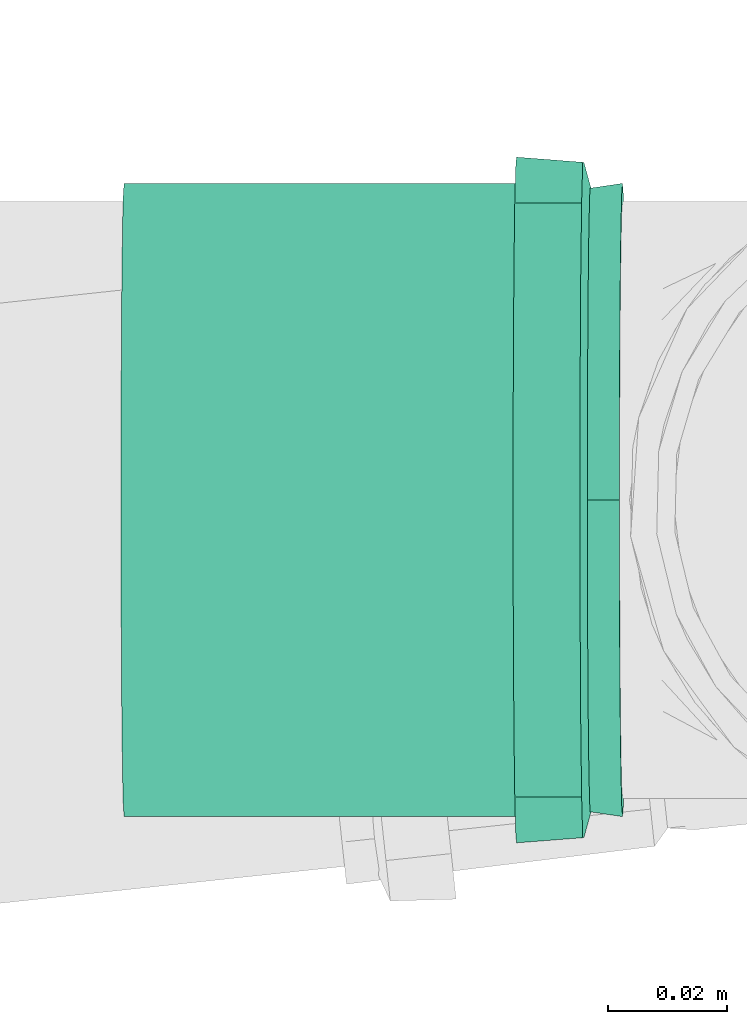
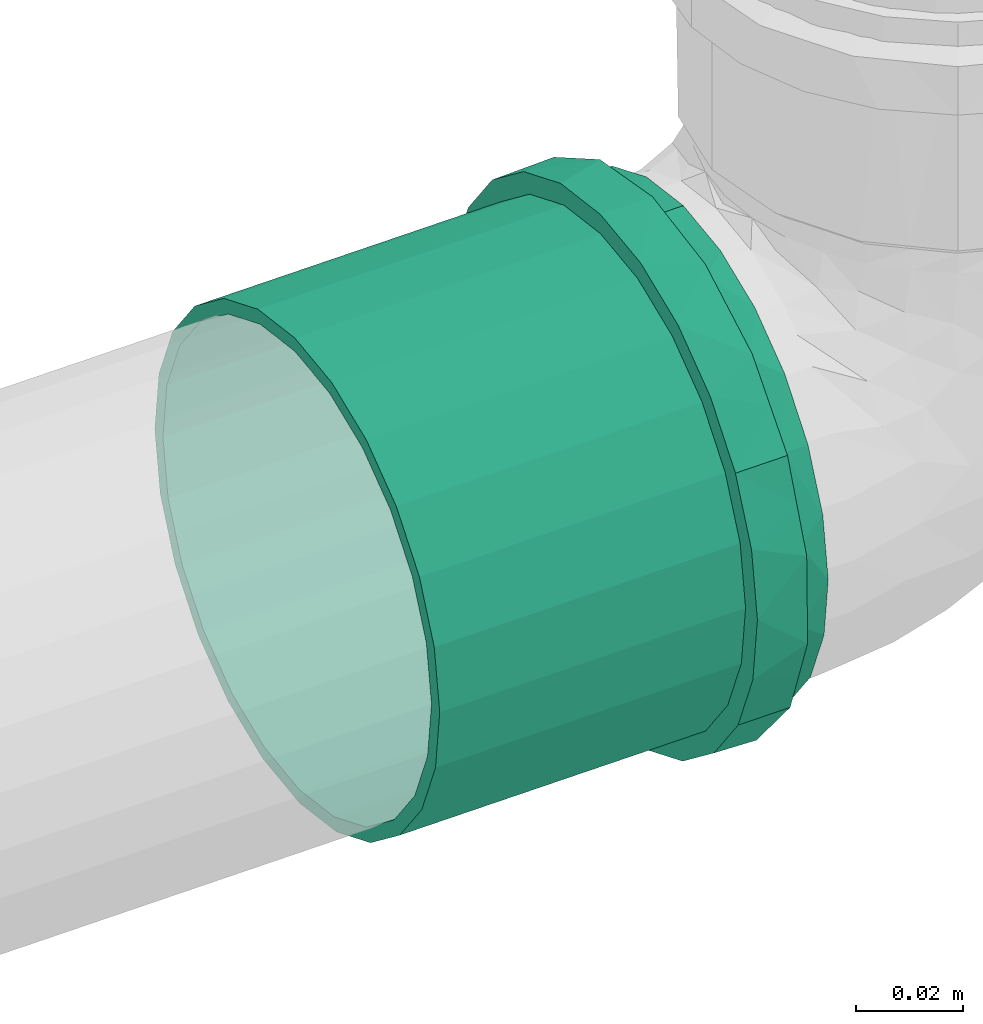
# One storey, part 38 of 97: 1 flow fitting.
"""IFC2X3 building model written with IfcOpenShell, lengths in centimetres."""

from ifc_helpers import new_model, entity, si_unit, converted_unit, derived_unit, direction, frame, origin, place, context, subcontext, project, spatial, faceted_brep, source, transform, mapped, material, type_object, type_shapes, element, save


model = new_model("IFC2X3")

# Units and contexts
model_context = context("Model", 3, precision=0.001, world=origin(), true_north=direction((6.12303176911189e-17, 1.0)))
body_context = subcontext(model_context, "Body", "Model", "MODEL_VIEW")
ifc_project = project(units=[si_unit("LENGTHUNIT", "METRE", prefix="CENTI"), si_unit("AREAUNIT", "SQUARE_METRE"), si_unit("VOLUMEUNIT", "CUBIC_METRE"), converted_unit("PLANEANGLEUNIT", "DEGREE", entity("IfcRatioMeasure", 0.0174532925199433), si_unit("PLANEANGLEUNIT", "RADIAN"), dimensions=[0, 0, 0, 0, 0, 0, 0]), si_unit("MASSUNIT", "GRAM", prefix="KILO"), derived_unit("MASSDENSITYUNIT", [(si_unit("MASSUNIT", "GRAM", prefix="KILO"), 1), (si_unit("LENGTHUNIT", "METRE"), -3)]), derived_unit("MOMENTOFINERTIAUNIT", [(si_unit("LENGTHUNIT", "METRE"), 4)]), si_unit("TIMEUNIT", "SECOND"), si_unit("FREQUENCYUNIT", "HERTZ"), si_unit("THERMODYNAMICTEMPERATUREUNIT", "DEGREE_CELSIUS"), derived_unit("THERMALTRANSMITTANCEUNIT", [(si_unit("MASSUNIT", "GRAM", prefix="KILO"), 1), (si_unit("THERMODYNAMICTEMPERATUREUNIT", "KELVIN"), -1), (si_unit("TIMEUNIT", "SECOND"), -3)]), derived_unit("VOLUMETRICFLOWRATEUNIT", [(si_unit("LENGTHUNIT", "METRE"), 3), (si_unit("TIMEUNIT", "SECOND"), -1)]), si_unit("ELECTRICCURRENTUNIT", "AMPERE"), si_unit("ELECTRICVOLTAGEUNIT", "VOLT"), si_unit("POWERUNIT", "WATT"), si_unit("FORCEUNIT", "NEWTON", prefix="KILO"), si_unit("ILLUMINANCEUNIT", "LUX"), si_unit("LUMINOUSFLUXUNIT", "LUMEN"), si_unit("LUMINOUSINTENSITYUNIT", "CANDELA"), derived_unit("USERDEFINED", [(si_unit("MASSUNIT", "GRAM", prefix="KILO"), -1), (si_unit("LENGTHUNIT", "METRE"), -2), (si_unit("TIMEUNIT", "SECOND"), 3), (si_unit("LUMINOUSFLUXUNIT", "LUMEN"), 1)]), derived_unit("LINEARVELOCITYUNIT", [(si_unit("LENGTHUNIT", "METRE"), 1), (si_unit("TIMEUNIT", "SECOND"), -1)]), si_unit("PRESSUREUNIT", "PASCAL"), derived_unit("USERDEFINED", [(si_unit("LENGTHUNIT", "METRE"), -2), (si_unit("MASSUNIT", "GRAM", prefix="KILO"), 1), (si_unit("TIMEUNIT", "SECOND"), -2)]), derived_unit("LINEARFORCEUNIT", [(si_unit("MASSUNIT", "GRAM", prefix="KILO"), 1), (si_unit("LENGTHUNIT", "METRE"), 1), (si_unit("TIMEUNIT", "SECOND"), -2), (si_unit("LENGTHUNIT", "METRE"), -1)]), derived_unit("PLANARFORCEUNIT", [(si_unit("MASSUNIT", "GRAM", prefix="KILO"), 1), (si_unit("LENGTHUNIT", "METRE"), 1), (si_unit("TIMEUNIT", "SECOND"), -2), (si_unit("LENGTHUNIT", "METRE"), -2)])], contexts=[model_context])

# Site, building, storey
site_placement = place(None, origin())
site = spatial("IfcSite", under=ifc_project, at=site_placement, Name="Default", CompositionType="ELEMENT")
building_placement = place(site_placement, origin())
building = spatial("IfcBuilding", under=site, at=building_placement, Name="HIDROSSANITÁRIO", CompositionType="ELEMENT")
storey_placement = place(building_placement, frame((0.0, 0.0, -260.0)))
storey = spatial("IfcBuildingStorey", under=building, at=storey_placement, Name="TÉRREO-HID", CompositionType="ELEMENT", Elevation=-260.0)

# Flow fitting
ifc_material = material(Name="PVC Branco")
pipe_fitting_type = type_object("IfcPipeFittingType", Name="Luva Simples para Conexão - Serie Normal - Esgoto - MEP - Tigre:Standard", PredefinedType="NOTDEFINED", material=ifc_material)
shared_shape = source(origin(), body_context, "Body", "Brep", [
    faceted_brep([(1.77700000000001, 2.8725, -4.9753159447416), (1.77700000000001, 4.06232845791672, -4.06232845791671), (1.77700000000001, 2.65249999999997, -4.59426476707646), (1.77700000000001, 1.37303503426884, -5.12423650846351), (1.77700000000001, 1.48691541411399, -5.5492438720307), (1.77700000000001, 3.75120147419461, -3.75120147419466), (1.77700000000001, 4.9753159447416, -2.8725), (1.77700000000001, 4.59426476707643, -2.65250000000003), (1.77700000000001, 5.1242365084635, -1.37303503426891), (1.77700000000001, 5.5492438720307, -1.48691541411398), (1.77700000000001, 5.305, 0.0), (1.77700000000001, 5.745, 0.0), (1.77700000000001, 5.1242365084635, 1.3730350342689), (1.77700000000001, 5.54924387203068, 1.48691541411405), (1.77700000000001, 4.59426476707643, 2.65250000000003), (1.77700000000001, 4.97531594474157, 2.87250000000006), (1.77700000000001, 3.75120147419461, 3.75120147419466), (1.77700000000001, 4.06232845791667, 4.06232845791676), (1.77700000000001, 2.65249999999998, 4.59426476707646), (1.77700000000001, 2.87249999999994, 4.97531594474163), (1.77700000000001, 1.37303503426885, 5.12423650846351), (1.77700000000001, 1.48691541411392, 5.54924387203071), (1.77700000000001, 0.0, 5.305), (1.77700000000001, 0.0, 5.745), (1.77700000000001, -1.37303503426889, 5.1242365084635), (1.77700000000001, -1.48691541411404, 5.54924387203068), (1.77700000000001, -2.65250000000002, 4.59426476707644), (1.77700000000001, -2.87250000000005, 4.97531594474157), (1.77700000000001, -3.75120147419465, 3.75120147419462), (1.77700000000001, -4.06232845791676, 4.06232845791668), (1.77700000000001, -4.59426476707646, 2.65249999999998), (1.77700000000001, -4.97531594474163, 2.87249999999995), (1.77700000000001, -5.54924387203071, 1.48691541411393), (1.77700000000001, -5.12423650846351, 1.37303503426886), (1.77700000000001, -5.745, 0.0), (1.77700000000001, -5.305, 0.0), (1.77700000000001, -5.54924387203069, -1.486915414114), (1.77700000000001, -5.12423650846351, -1.37303503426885), (1.77700000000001, -4.97531594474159, -2.87250000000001), (1.77700000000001, -4.59426476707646, -2.65249999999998), (1.77700000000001, -4.06232845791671, -4.06232845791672), (1.77700000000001, -3.75120147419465, -3.75120147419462), (1.77700000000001, -2.87249999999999, -4.97531594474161), (1.77700000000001, -2.65250000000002, -4.59426476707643), (1.77700000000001, -1.48691541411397, -5.5492438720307), (1.77700000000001, -1.3730350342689, -5.1242365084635), (1.77700000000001, 0.0, -5.745), (1.77700000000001, 0.0, -5.305), (0.657000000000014, -1.93463887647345, 5.31665771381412), (0.657000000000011, -4.4007619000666, 3.69300957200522), (0.657000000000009, -4.89962626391, 2.82901737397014), (0.657000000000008, -5.39849062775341, 1.96502517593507), (0.657000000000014, -2.87216972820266, 4.97550661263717), (0.657000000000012, -3.63646581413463, 4.3342580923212), (0.657000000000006, -5.5717453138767, 0.982512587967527), (0.657000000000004, -5.745, 0.0), (0.657000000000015, -0.997108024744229, 5.65780881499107), (0.657000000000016, 0.998234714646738, 5.65761013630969), (0.657000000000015, 0.0005633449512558, 5.65770947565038), (0.657000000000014, 3.63732887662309, 4.33353383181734), (0.657000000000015, 1.93569761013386, 5.31627233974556), (0.657000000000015, 2.87316050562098, 4.97493454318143), (0.65700000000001, 5.39888184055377, 1.96395006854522), (0.657000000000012, 4.90018954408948, 2.82804159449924), (0.657000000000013, 4.40149724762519, 3.69213312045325), (0.657000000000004, 5.745, 0.0), (0.656999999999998, 4.40149724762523, -3.6921331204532), (0.657, 4.90018954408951, -2.82804159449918), (0.657000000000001, 5.39888184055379, -1.96395006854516), (0.656999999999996, 2.87316050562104, -4.9749345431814), (0.656999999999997, 3.63732887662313, -4.3335338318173), (0.656999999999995, 1.93569761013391, -5.31627233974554), (0.656999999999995, 0.998234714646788, -5.65761013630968), (0.656999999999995, -0.997108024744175, -5.65780881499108), (0.656999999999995, 0.000563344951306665, -5.65770947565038), (0.656999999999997, -3.6364658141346, -4.33425809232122), (0.656999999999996, -2.87216972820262, -4.9755066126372), (0.656999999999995, -1.9346388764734, -5.31665771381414), (0.657000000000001, -5.39849062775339, -1.96502517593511), (0.657, -4.89962626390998, -2.82901737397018), (0.656999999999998, -4.40076190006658, -3.69300957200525), (0.657000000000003, -5.5717453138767, -0.982512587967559), (8.35200000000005, 2.6525, -4.59426476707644), (8.35200000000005, 3.75120147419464, -3.75120147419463), (8.35200000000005, 2.49999999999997, -4.33012701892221), (8.35200000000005, 1.29409522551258, -4.82962913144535), (8.35200000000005, 1.37303503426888, -5.1242365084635), (8.35200000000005, 3.53553390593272, -3.53553390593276), (8.35200000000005, 4.59426476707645, -2.6525), (8.35200000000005, 4.33012701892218, -2.50000000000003), (8.35200000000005, 4.82962913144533, -1.29409522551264), (8.35200000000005, 5.12423650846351, -1.37303503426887), (8.35200000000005, 5.0, 0.0), (8.35200000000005, 5.305, 0.0), (8.35200000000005, 4.82962913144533, 1.29409522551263), (8.35200000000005, 5.12423650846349, 1.37303503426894), (8.35200000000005, 4.33012701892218, 2.50000000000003), (8.35200000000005, 4.59426476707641, 2.65250000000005), (8.35200000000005, 3.53553390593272, 3.53553390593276), (8.35200000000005, 3.75120147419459, 3.75120147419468), (8.35200000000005, 2.49999999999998, 4.33012701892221), (8.35200000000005, 2.65249999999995, 4.59426476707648), (8.35200000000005, 1.29409522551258, 4.82962913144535), (8.35200000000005, 1.37303503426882, 5.12423650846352), (8.35200000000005, 0.0, 5.0), (8.35200000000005, 0.0, 5.305), (8.35200000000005, -1.29409522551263, 4.82962913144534), (8.35200000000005, -1.37303503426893, 5.12423650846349), (8.35200000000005, -2.50000000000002, 4.33012701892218), (8.35200000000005, -2.65250000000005, 4.59426476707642), (8.35200000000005, -3.53553390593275, 3.53553390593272), (8.35200000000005, -3.75120147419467, 3.7512014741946), (8.35200000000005, -4.3301270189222, 2.49999999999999), (8.35200000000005, -4.59426476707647, 2.65249999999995), (8.35200000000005, -5.12423650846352, 1.37303503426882), (8.35200000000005, -4.82962913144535, 1.29409522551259), (8.35200000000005, -5.305, 0.0), (8.35200000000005, -5.0, 0.0), (8.35200000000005, -5.1242365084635, -1.37303503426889), (8.35200000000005, -4.82962913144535, -1.29409522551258), (8.35200000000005, -4.59426476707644, -2.65250000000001), (8.35200000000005, -4.3301270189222, -2.49999999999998), (8.35200000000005, -3.75120147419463, -3.75120147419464), (8.35200000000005, -3.53553390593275, -3.53553390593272), (8.35200000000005, -2.65249999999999, -4.59426476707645), (8.35200000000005, -2.50000000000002, -4.33012701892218), (8.35200000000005, -1.37303503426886, -5.12423650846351), (8.35200000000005, -1.29409522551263, -4.82962913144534), (8.35200000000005, 0.0, -5.305), (8.35200000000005, 0.0, -5.0), (0.0, 2.49999999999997, -4.33012701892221), (0.0, 3.75120147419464, -3.75120147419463), (0.0, 2.6525, -4.59426476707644), (0.0, 1.29409522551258, -4.82962913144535), (0.0, 3.53553390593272, -3.53553390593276), (0.0, 4.59426476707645, -2.6525), (0.0, 4.33012701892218, -2.50000000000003), (0.0, 4.82962913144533, -1.29409522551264), (0.0, 5.12423650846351, -1.37303503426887), (0.0, 5.0, 0.0), (0.0, 5.305, 0.0), (0.0, 4.82962913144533, 1.29409522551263), (0.0, 5.12423650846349, 1.37303503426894), (0.0, 4.33012701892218, 2.50000000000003), (0.0, 4.59426476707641, 2.65250000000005), (0.0, 3.53553390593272, 3.53553390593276), (0.0, 3.75120147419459, 3.75120147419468), (0.0, 2.49999999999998, 4.33012701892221), (0.0, 2.65249999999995, 4.59426476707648), (0.0, 1.29409522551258, 4.82962913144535), (0.0, 1.37303503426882, 5.12423650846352), (0.0, 0.0, 5.0), (0.0, 0.0, 5.305), (0.0, -1.29409522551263, 4.82962913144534), (0.0, -1.37303503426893, 5.12423650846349), (0.0, -2.50000000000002, 4.33012701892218), (0.0, -2.65250000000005, 4.59426476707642), (0.0, -3.53553390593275, 3.53553390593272), (0.0, -3.75120147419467, 3.7512014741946), (0.0, -4.3301270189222, 2.49999999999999), (0.0, -4.59426476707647, 2.65249999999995), (0.0, -5.12423650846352, 1.37303503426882), (0.0, -4.82962913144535, 1.29409522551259), (0.0, -5.305, 0.0), (0.0, -5.0, 0.0), (0.0, -5.1242365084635, -1.37303503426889), (0.0, -4.82962913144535, -1.29409522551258), (0.0, -4.59426476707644, -2.65250000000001), (0.0, -4.3301270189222, -2.49999999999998), (0.0, -3.75120147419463, -3.75120147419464), (0.0, -3.53553390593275, -3.53553390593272), (0.0, -2.65249999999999, -4.59426476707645), (0.0, -2.50000000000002, -4.33012701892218), (0.0, -1.37303503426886, -5.12423650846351), (0.0, -1.29409522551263, -4.82962913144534), (0.0, 0.0, -5.305), (0.0, 0.0, -5.0), (0.0, 1.37303503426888, -5.1242365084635), (0.537000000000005, -5.305, 0.0), (0.537000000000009, -4.98507989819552, 1.81438788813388), (0.537000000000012, -4.06390540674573, 3.4099410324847), (0.537000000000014, -2.65258010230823, 4.59421851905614), (0.537000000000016, -0.921325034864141, 5.22438371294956), (0.537000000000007, 5.1449924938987, 0.907324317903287), (0.537000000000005, 5.305, 0.0), (0.537000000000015, 2.65233979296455, 4.59435725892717), (0.537000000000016, 0.921051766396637, 5.22443189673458), (0.537000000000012, 4.06372704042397, 3.41015359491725), (0.537000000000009, 4.9849849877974, 1.81464863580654), (0.537000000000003, 5.14499249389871, -0.907324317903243), (0.537000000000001, 4.98498498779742, -1.81464863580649), (0.536999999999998, 4.063727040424, -3.41015359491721), (0.536999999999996, 2.6523397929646, -4.59435725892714), (0.536999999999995, 0.921051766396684, -5.22443189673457), (0.536999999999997, -2.6525801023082, -4.59421851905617), (0.536999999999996, -0.921325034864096, -5.22438371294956), (0.536999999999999, -4.0639054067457, -3.40994103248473), (0.537000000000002, -4.98507989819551, -1.81438788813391), (5.0, -5.0, 0.0), (5.0, 5.0, 0.0)], [[[0, 1, 2]], [[0, 2, 3]], [[3, 4, 0]], [[2, 1, 5]], [[6, 5, 1]], [[5, 6, 7]], [[7, 6, 8]], [[9, 8, 6]], [[9, 10, 8]], [[10, 9, 11]], [[12, 10, 11]], [[11, 13, 12]], [[12, 13, 14]], [[15, 14, 13]], [[14, 15, 16]], [[16, 15, 17]], [[18, 16, 17]], [[17, 19, 18]], [[18, 19, 20]], [[21, 20, 19]], [[20, 21, 22]], [[22, 21, 23]], [[22, 23, 24]], [[24, 23, 25]], [[24, 25, 26]], [[27, 26, 25]], [[27, 28, 26]], [[28, 27, 29]], [[29, 30, 28]], [[31, 30, 29]], [[30, 31, 32]], [[32, 33, 30]], [[34, 33, 32]], [[34, 35, 33]], [[36, 35, 34]], [[36, 37, 35]], [[37, 36, 38]], [[38, 39, 37]], [[39, 38, 40]], [[39, 40, 41]], [[40, 42, 41]], [[41, 42, 43]], [[43, 42, 44]], [[44, 45, 43]], [[46, 45, 44]], [[4, 47, 46]], [[46, 47, 45]], [[4, 3, 47]], [[48, 27, 25]], [[31, 29, 49]], [[31, 49, 50, 51]], [[52, 53, 27]], [[32, 51, 54]], [[54, 55, 34]], [[54, 34, 32]], [[25, 56, 48]], [[49, 29, 53]], [[23, 57, 58, 56]], [[59, 19, 17]], [[27, 53, 29]], [[48, 52, 27]], [[31, 51, 32]], [[57, 23, 21]], [[60, 19, 61]], [[15, 62, 63, 64]], [[19, 60, 21]], [[15, 13, 62]], [[17, 64, 59]], [[57, 21, 60]], [[23, 56, 25]], [[15, 64, 17]], [[13, 65, 62]], [[13, 11, 65]], [[59, 61, 19]], [[65, 11, 9]], [[6, 1, 66]], [[6, 66, 67, 68]], [[69, 70, 0]], [[68, 65, 9]], [[71, 69, 0]], [[71, 0, 4]], [[4, 72, 71]], [[66, 1, 70]], [[46, 73, 74, 72]], [[75, 76, 42]], [[0, 70, 1]], [[75, 42, 40]], [[6, 68, 9]], [[73, 46, 44]], [[77, 42, 76]], [[38, 78, 79, 80]], [[42, 77, 44]], [[38, 36, 78]], [[40, 80, 75]], [[73, 44, 77]], [[46, 72, 4]], [[38, 80, 40]], [[81, 78, 36]], [[55, 81, 34]], [[34, 81, 36]], [[82, 83, 84]], [[82, 84, 85]], [[85, 86, 82]], [[84, 83, 87]], [[88, 87, 83]], [[87, 88, 89]], [[89, 88, 90]], [[91, 90, 88]], [[91, 92, 90]], [[92, 91, 93]], [[94, 92, 93]], [[93, 95, 94]], [[94, 95, 96]], [[97, 96, 95]], [[96, 97, 98]], [[98, 97, 99]], [[100, 98, 99]], [[99, 101, 100]], [[100, 101, 102]], [[103, 102, 101]], [[102, 103, 104]], [[104, 103, 105]], [[104, 105, 106]], [[106, 105, 107]], [[106, 107, 108]], [[109, 108, 107]], [[110, 108, 109]], [[110, 109, 111]], [[111, 112, 110]], [[113, 112, 111]], [[112, 113, 114]], [[114, 115, 112]], [[116, 115, 114]], [[116, 117, 115]], [[118, 117, 116]], [[118, 119, 117]], [[119, 118, 120]], [[120, 121, 119]], [[121, 120, 122]], [[121, 122, 123]], [[122, 124, 123]], [[125, 123, 124]], [[125, 124, 126]], [[126, 127, 125]], [[128, 127, 126]], [[86, 129, 128]], [[128, 129, 127]], [[86, 85, 129]], [[130, 131, 132]], [[133, 130, 132]], [[134, 131, 130]], [[131, 134, 135]], [[136, 135, 134]], [[137, 135, 136]], [[135, 137, 138]], [[137, 139, 138]], [[140, 138, 139]], [[140, 139, 141]], [[141, 142, 140]], [[143, 142, 141]], [[142, 143, 144]], [[145, 144, 143]], [[146, 144, 145]], [[146, 145, 147]], [[147, 148, 146]], [[149, 148, 147]], [[148, 149, 150]], [[151, 150, 149]], [[152, 150, 151]], [[153, 152, 151]], [[154, 152, 153]], [[155, 154, 153]], [[154, 155, 156]], [[156, 155, 157]], [[158, 156, 157]], [[157, 159, 158]], [[158, 159, 160]], [[161, 160, 159]], [[159, 162, 161]], [[161, 162, 163]], [[162, 164, 163]], [[163, 164, 165]], [[164, 166, 165]], [[167, 165, 166]], [[166, 168, 167]], [[169, 167, 168]], [[170, 169, 168]], [[170, 171, 169]], [[171, 170, 172]], [[173, 171, 172]], [[172, 174, 173]], [[173, 174, 175]], [[174, 176, 175]], [[176, 133, 177]], [[175, 176, 177]], [[132, 177, 133]], [[161, 178, 179]], [[158, 180, 181]], [[179, 180, 160]], [[181, 182, 154]], [[179, 160, 161]], [[161, 163, 178]], [[35, 116, 114, 33]], [[183, 184, 140]], [[181, 156, 158]], [[158, 160, 180]], [[181, 154, 156]], [[182, 152, 154]], [[183, 140, 142]], [[185, 150, 186]], [[187, 146, 185]], [[142, 188, 183]], [[187, 188, 144]], [[185, 148, 150]], [[150, 152, 186]], [[187, 144, 146]], [[146, 148, 185]], [[188, 142, 144]], [[186, 152, 182]], [[189, 190, 138]], [[131, 191, 192]], [[190, 191, 135]], [[192, 193, 177]], [[190, 135, 138]], [[184, 189, 140]], [[192, 132, 131]], [[131, 135, 191]], [[192, 177, 132]], [[193, 175, 177]], [[140, 189, 138]], [[194, 173, 195]], [[196, 169, 194]], [[165, 197, 178]], [[196, 197, 167]], [[165, 178, 163]], [[35, 37, 118, 116]], [[194, 171, 173]], [[173, 175, 195]], [[196, 167, 169]], [[169, 171, 194]], [[197, 165, 167]], [[195, 175, 193]], [[115, 117, 198, 164, 162]], [[155, 108, 110, 157]], [[110, 112, 159, 157]], [[112, 115, 162, 159]], [[106, 108, 155, 153]], [[153, 151, 104, 106]], [[102, 104, 151, 149]], [[102, 149, 147, 100]], [[141, 94, 96, 143]], [[96, 98, 145, 143]], [[98, 100, 147, 145]], [[92, 94, 141, 139, 199]], [[199, 139, 137, 90, 92]], [[87, 89, 136, 134]], [[134, 130, 84, 87]], [[89, 90, 137, 136]], [[85, 84, 130, 133]], [[133, 176, 129, 85]], [[127, 129, 176, 174]], [[127, 174, 172, 125]], [[166, 119, 121, 168]], [[121, 123, 170, 168]], [[123, 125, 172, 170]], [[117, 119, 166, 164, 198]], [[81, 178, 197]], [[190, 68, 67]], [[194, 75, 196]], [[193, 72, 74]], [[195, 77, 194]], [[79, 197, 196]], [[81, 55, 178]], [[192, 69, 71]], [[79, 78, 197]], [[194, 77, 76]], [[191, 66, 70]], [[80, 196, 75]], [[68, 190, 189]], [[74, 195, 193]], [[192, 71, 193]], [[190, 67, 191]], [[70, 192, 191]], [[65, 189, 184]], [[195, 73, 77]], [[193, 71, 72]], [[197, 78, 81]], [[191, 67, 66]], [[189, 65, 68]], [[196, 80, 79]], [[70, 69, 192]], [[194, 76, 75]], [[73, 195, 74]], [[65, 183, 62]], [[48, 56, 182]], [[58, 182, 56]], [[54, 51, 179]], [[59, 185, 61]], [[60, 186, 57]], [[53, 52, 181]], [[63, 187, 64]], [[58, 57, 186]], [[187, 63, 188]], [[186, 60, 185]], [[50, 49, 180]], [[185, 59, 187]], [[59, 64, 187]], [[182, 58, 186]], [[50, 179, 51]], [[54, 178, 55]], [[53, 180, 49]], [[63, 62, 188]], [[181, 48, 182]], [[183, 65, 184]], [[179, 50, 180]], [[178, 54, 179]], [[183, 188, 62]], [[180, 53, 181]], [[60, 61, 185]], [[48, 181, 52]], [[30, 33, 114, 113]], [[26, 28, 111, 109]], [[113, 111, 28, 30]], [[107, 24, 26, 109]], [[107, 105, 22, 24]], [[18, 20, 103, 101]], [[99, 16, 18, 101]], [[12, 14, 97, 95]], [[99, 97, 14, 16]], [[10, 12, 95, 93]], [[103, 20, 22, 105]], [[91, 8, 10, 93]], [[88, 7, 8, 91]], [[82, 86, 3, 2]], [[83, 5, 7, 88]], [[2, 5, 83, 82]], [[86, 128, 47, 3]], [[43, 45, 126, 124]], [[122, 41, 43, 124]], [[37, 39, 120, 118]], [[122, 120, 39, 41]], [[126, 45, 47, 128]]]),
])
type_shapes(pipe_fitting_type, [shared_shape])
flow_fitting_placement = place(storey_placement, frame((3081.2199313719, -81.2997000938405, 119.941520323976), z_axis=(-3.59695556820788e-05, 1.0, 0.0), x_axis=(-0.999950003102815, -3.59677573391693e-05, -0.00999950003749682)))
element("IfcFlowFitting", 1, at=flow_fitting_placement, inside=storey, type_object=pipe_fitting_type, material=ifc_material, Name="Luva Simples para Conexão - Serie Normal - Esgoto - MEP - Tigre:Standard", ObjectType="Luva Simples para Conexão - Serie Normal - Esgoto - MEP - Tigre:Standard", context=body_context, shape_type="MappedRepresentation", body=[
    mapped(shared_shape, transform((0.0, 0.0, 0.0), scale=1.0)),
])

save(model, "model.ifc")
